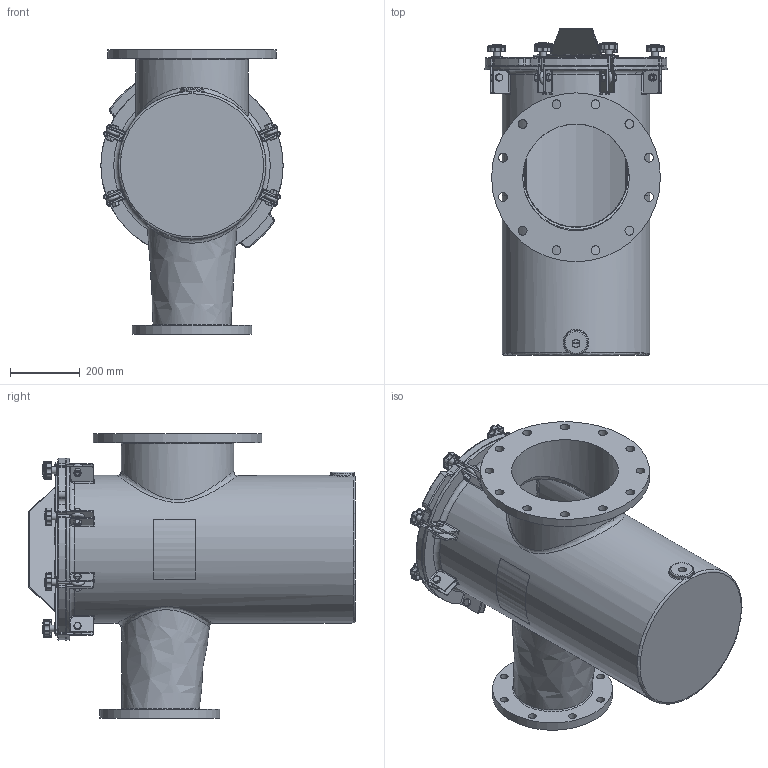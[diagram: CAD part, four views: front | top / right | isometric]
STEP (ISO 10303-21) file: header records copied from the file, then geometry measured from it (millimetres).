
FILE_DESCRIPTION(/* description */ ('STRAINER BODY'),/* implementation_level */ '2;1');
FILE_NAME(/* name */ '\\chntshnas1\IP_PUMPS\NeptuneBenson\Project Execution\WIP\Ready for delivery - Do not Disturb -Updated with metric Flange\Workspace\FG Reducing Strainer\150NBFG28ER1.stp',/* time_stamp */ '2016-10-19T11:57:14+05:00',/* author */ ('20076253'),/* organization */ (''),/* preprocessor_version */ 'ST-DEVELOPER v16.1',/* originating_system */ 'Autodesk Inventor 2016',/* authorisation */ '');
FILE_SCHEMA (('AUTOMOTIVE_DESIGN { 1 0 10303 214 3 1 1 }'));
Length unit declared in the file: inch
Products named in the file (24): NBFG28EBODYR1; 150NBCVR20R2; 150NBGSK16R1; Perforated Basket 16in; Bride (Ring) 16in; Baffle 16in; Handle 16in; Bottom Strainer 16in; NBBSK10T316; BRACESTRCVR16_Welds; BRACE (BASE) FOR 16 BODY; BRACE (PROJ) FOR 16 BODY; Bumper; BRACESTRCVR16; Nut- 1_2  UNC; Bolt-1_2 x 1 1_2  UNC; EyeBolt; Washer; Knob M10; Securing Assembly For FG  with Brace; Securing Assembly For FG without Brace; Label for 16.625 inch (Right); Label for 16.625 inch (Left); Guardian FG Reducing H&L Strainer (Inch)
Assembly tree (39 placements, depth 3):
  Guardian FG Reducing H&L Strainer (Inch)
    NBFG28EBODYR1
    150NBCVR20R2
    150NBGSK16R1
    NBBSK10T316
      Perforated Basket 16in
      Bride (Ring) 16in
      Baffle 16in
      Handle 16in
      Bottom Strainer 16in
    BRACESTRCVR16
      BRACESTRCVR16_Welds
      BRACE (BASE) FOR 16 BODY
      BRACE (PROJ) FOR 16 BODY
      Bumper  x6
    Securing Assembly For FG  with Brace  x2
      Nut- 1_2  UNC
      Bolt-1_2 x 1 1_2  UNC
      EyeBolt
      Washer
      Knob M10
    Securing Assembly For FG without Brace  x6
      Nut- 1_2  UNC
      Bolt-1_2 x 1 1_2  UNC
      EyeBolt
      Washer
      Knob M10
    Label for 16.625 inch (Right)
    Label for 16.625 inch (Left)
Bounding box: 520.7 x 933.45 x 812.8 mm (x, y, z)
Volume: 24116994.8 mm3; surface area: 5904293.8 mm2
Topology: 66 solids, 66 shells, 1804 faces, 4113 edges, 2430 vertices
Faces by surface type: cylinder 658, plane 500, cone 184, torus 166, sphere 158, bspline 138
Full cylindrical faces by diameter (mm): 3.175 x11, 6.35 x2, 8.382 x8, 9.525 x16, 10.592 x8, 12.7 x8, 15.875 x16, 19 x16, 19.05 x8, 22.225 x8, 22.809 x1, 25.4 x12, 31.75 x8, 68.263 x1, 295.275 x2, 298.45 x1, 300.99 x1, 304.8 x1, 320.675 x1, 342.9 x1, 406.4 x2, 409.575 x1, 415.925 x1, 422.275 x1, 457.2 x1, 463.55 x1, 482.6 x1
Entity records: 34006 total; most frequent: CARTESIAN_POINT 11215, DIRECTION 4715, ORIENTED_EDGE 4300, EDGE_CURVE 2150, AXIS2_PLACEMENT_3D 1934, VERTEX_POINT 1347, EDGE_LOOP 1167, ADVANCED_FACE 954
